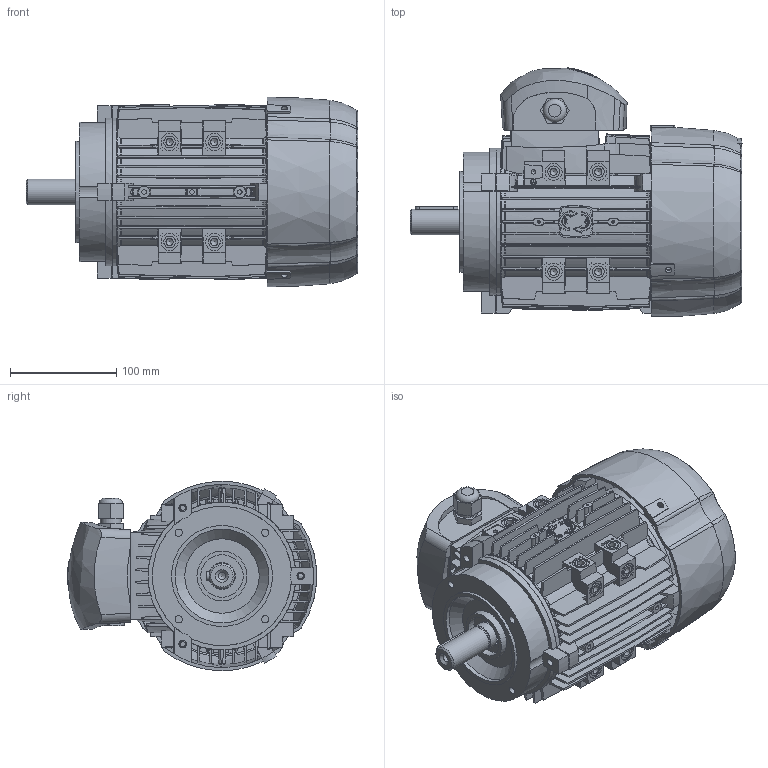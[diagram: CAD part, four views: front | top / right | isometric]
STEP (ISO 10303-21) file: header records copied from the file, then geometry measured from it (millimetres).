
FILE_DESCRIPTION((''),'2;1');
FILE_NAME('D:\htdocs\motive\source_step\M90S.stp','2014-09-02T16:55:52',('ing.Casini'),(''),'Autodesk Inventor 2010','Autodesk Inventor 2010','');
FILE_SCHEMA(('AUTOMOTIVE_DESIGN { 1 0 10303 214 1 1 1 1 }'));
Length unit declared in the file: millimetre
Products named in the file (7): M90S Lighter motor Assly_28.08.14; BODY90S; B1490; NDE90_As per DE Cover; SH90S; TBOX90_100; FCV90
Assembly tree (6 placements, depth 2):
  M90S Lighter motor Assly_28.08.14
    BODY90S
    B1490
    NDE90_As per DE Cover
    SH90S
    TBOX90_100
    FCV90
Bounding box: 312.12 x 233.94 x 178.16 mm (x, y, z)
Volume: 3405690.8 mm3; surface area: 591140.3 mm2
Topology: 6 solids, 6 shells, 2201 faces, 6094 edges, 4039 vertices
Faces by surface type: plane 862, bspline 562, cylinder 424, torus 183, cone 168, sphere 2
Full cylindrical faces by diameter (mm): 2.5 x4, 4.2 x16, 5 x9, 5.4 x2, 6 x3, 6.6 x3, 6.8 x16, 7 x4, 11 x15, 20 x1, 23 x1, 24 x1, 25 x4, 40 x2, 42 x2, 47 x1, 50 x1, 52 x3, 55 x1, 88 x1, 95 x1, 125 x1, 131 x4
Entity records: 104027 total; most frequent: CARTESIAN_POINT 52473, ORIENTED_EDGE 11812, DIRECTION 8863, EDGE_CURVE 5906, VERTEX_POINT 3998, AXIS2_PLACEMENT_3D 3296, EDGE_LOOP 2522, VECTOR 2271
